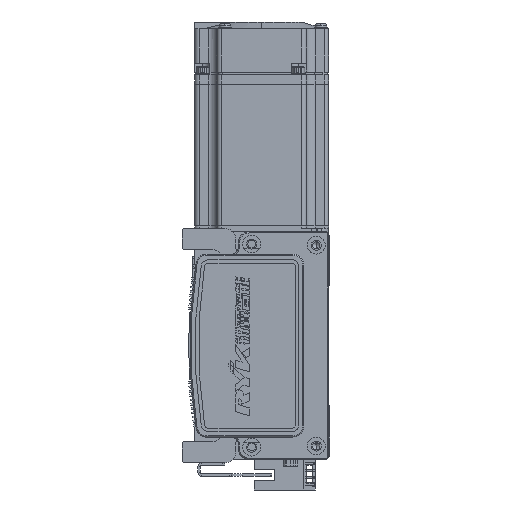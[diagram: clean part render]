
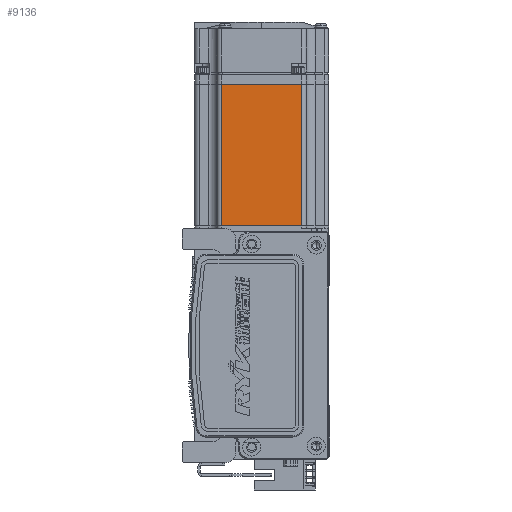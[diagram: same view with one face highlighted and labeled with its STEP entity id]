
A CAD part, left-side view. The second image highlights one B-rep face of the part: STEP entity #9136.
In plain terms, the highlighted planar face has unit normal (-1, 0, 0) as drawn and (0, 0, -1) by its records, which use the part's own axes.
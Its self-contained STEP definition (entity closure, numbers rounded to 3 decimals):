
#7021 = EDGE_CURVE ( 'NONE', #48906, #51903, #18373, .T. ) ;
#9136 = ADVANCED_FACE ( 'NONE', ( #11846 ), #34322, .T. ) ;
#11846 = FACE_OUTER_BOUND ( 'NONE', #44524, .T. ) ;
#12301 = VERTEX_POINT ( 'NONE', #20475 ) ;
#12863 = CARTESIAN_POINT ( 'NONE',  ( -7.75, -18., -30. ) ) ;
#18373 = LINE ( 'NONE', #70774, #46754 ) ;
#18572 = CARTESIAN_POINT ( 'NONE',  ( -6.5, 18., -30. ) ) ;
#20161 = DIRECTION ( 'NONE',  ( 0., 1., 0. ) ) ;
#20322 = DIRECTION ( 'NONE',  ( 1., 0., 0. ) ) ;
#20475 = CARTESIAN_POINT ( 'NONE',  ( -70.95, 18., -30. ) ) ;
#20539 = DIRECTION ( 'NONE',  ( 0., -1., 0. ) ) ;
#20576 = VECTOR ( 'NONE', #20322, 1000. ) ;
#24663 = LINE ( 'NONE', #54126, #51259 ) ;
#26087 = ORIENTED_EDGE ( 'NONE', *, *, #7021, .T. ) ;
#28163 = EDGE_CURVE ( 'NONE', #12301, #33251, #50722, .T. ) ;
#33251 = VERTEX_POINT ( 'NONE', #39344 ) ;
#34322 = PLANE ( 'NONE',  #38416 ) ;
#35665 = CARTESIAN_POINT ( 'NONE',  ( -70.95, -18., -30. ) ) ;
#37242 = EDGE_CURVE ( 'NONE', #51903, #12301, #24663, .T. ) ;
#38416 = AXIS2_PLACEMENT_3D ( 'NONE', #51949, #69037, #46728 ) ;
#39344 = CARTESIAN_POINT ( 'NONE',  ( -7.75, 18., -30. ) ) ;
#44524 = EDGE_LOOP ( 'NONE', ( #57459, #26087, #56124, #61063 ) ) ;
#45753 = VECTOR ( 'NONE', #20539, 1000. ) ;
#46728 = DIRECTION ( 'NONE',  ( -1., 0., 0. ) ) ;
#46754 = VECTOR ( 'NONE', #71021, 1000. ) ;
#48906 = VERTEX_POINT ( 'NONE', #12863 ) ;
#50722 = LINE ( 'NONE', #18572, #20576 ) ;
#51259 = VECTOR ( 'NONE', #20161, 1000. ) ;
#51903 = VERTEX_POINT ( 'NONE', #35665 ) ;
#51949 = CARTESIAN_POINT ( 'NONE',  ( -6.5, 25., -30. ) ) ;
#54126 = CARTESIAN_POINT ( 'NONE',  ( -70.95, 25., -30. ) ) ;
#56124 = ORIENTED_EDGE ( 'NONE', *, *, #37242, .T. ) ;
#57459 = ORIENTED_EDGE ( 'NONE', *, *, #61086, .T. ) ;
#61063 = ORIENTED_EDGE ( 'NONE', *, *, #28163, .T. ) ;
#61086 = EDGE_CURVE ( 'NONE', #33251, #48906, #72359, .T. ) ;
#65888 = CARTESIAN_POINT ( 'NONE',  ( -7.75, 25., -30. ) ) ;
#69037 = DIRECTION ( 'NONE',  ( 0., 0., -1. ) ) ;
#70774 = CARTESIAN_POINT ( 'NONE',  ( -6.5, -18., -30. ) ) ;
#71021 = DIRECTION ( 'NONE',  ( -1., 0., 0. ) ) ;
#72359 = LINE ( 'NONE', #65888, #45753 ) ;
